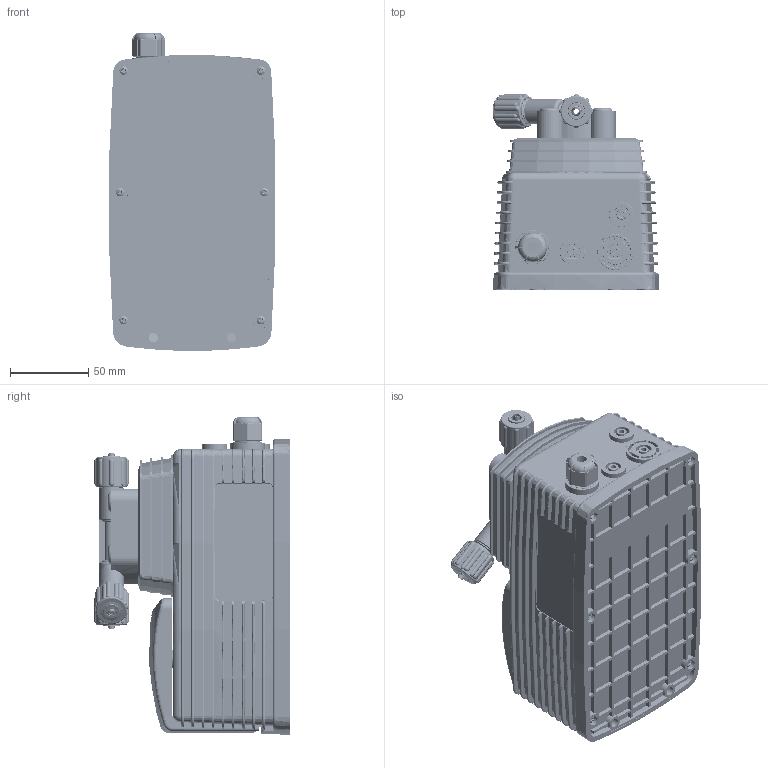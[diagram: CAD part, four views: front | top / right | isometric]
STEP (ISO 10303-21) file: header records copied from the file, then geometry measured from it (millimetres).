
FILE_DESCRIPTION (( 'STEP AP203' ), '1' );
FILE_NAME ('EMEC V Series Pump.STEP', '2020-01-14T02:17:53', ( '' ), ( '' ), 'SwSTEP 2.0', 'SolidWorks 2018', '' );
FILE_SCHEMA (( 'CONFIG_CONTROL_DESIGN' ));
Length unit declared in the file: millimetre
Products named in the file (33): Screw - Countersunk - Mini; Solenoid - Main Body; EMEC 025.XXXX.X - Hose Fitting Kit - 3_8in 4x6_Hose Fitting Kit - 3_8in - 4x6 - FP; Screw - Pan Head - 15mm; EMEC V series pump - Diaphgram; Solenoid - Limit Plate; Gland - 16mm - Body; Priming_Bleed Valve - 3_8in_FP; EMEC V series pump - Head_Degassing head; Solenoid - Nut; Gland - 16mm - Bush; O-Ring - 6.75 x 1.75; O-Ring - 39.0 x 2.5 - Head O-Ring; Solenoid - Pin; Gland - 16mm; O-Ring - 10.25 x 2.25; O-Ring - 11.5 x 1.75; Solenoid - Plunger; EMEC V Series Pump; Bolt - SS - Hex Head - M4x0.5; Solenoid - Washer; EMEC V series pump - Body; Hose Fitting Kit - 3_8in - 4x6 Cone; Washer - SS - M4 - 11.6mm; Solenoid - Complete; EMEC V series pump - Speed Adjustment Knob; Hose Fitting Kit - 3_8in - Nut_Hose Fitting Kit - 3_8in - Nut - FP; Bolt Cap - Plastic - Small; EMEC V series pump - Clear (Tinted) Lid; EMEC V series pump - Body Back; Hose Fitting Kit - 3_8in - 4x6 Clamp; EMEC V series pump - Head_DeGassing Head
Assembly tree (51 placements, depth 3):
  EMEC V Series Pump
    EMEC V series pump - Body
    EMEC V series pump - Speed Adjustment Knob
    EMEC V series pump - Body Back
    Solenoid - Complete
      Solenoid - Main Body
      Solenoid - Limit Plate
      Solenoid - Nut
      Solenoid - Pin
      Solenoid - Plunger
      Solenoid - Washer
    EMEC V series pump - Clear (Tinted) Lid
    Screw - Countersunk - Mini  x2
    EMEC V series pump - Diaphgram
    EMEC V series pump - Head_DeGassing Head
      EMEC V series pump - Head_Degassing head
      O-Ring - 39.0 x 2.5 - Head O-Ring
      O-Ring - 11.5 x 1.75  x3
      Bolt - SS - Hex Head - M4x0.5  x4
      Washer - SS - M4 - 11.6mm  x4
      Bolt Cap - Plastic - Small  x4
    Screw - Pan Head - 15mm  x6
    Priming_Bleed Valve - 3_8in_FP
      Priming_Bleed Valve - 3_8in_FP
      O-Ring - 6.75 x 1.75
      O-Ring - 10.25 x 2.25
    EMEC 025.XXXX.X - Hose Fitting Kit - 3_8in 4x6_Hose Fitting Kit - 3_8in - 4x6 - FP  x3
      Hose Fitting Kit - 3_8in - 4x6 Cone
      Hose Fitting Kit - 3_8in - Nut_Hose Fitting Kit - 3_8in - Nut - FP
      Hose Fitting Kit - 3_8in - 4x6 Clamp
    Gland - 16mm
      Gland - 16mm - Body
      Gland - 16mm - Bush
Bounding box: 106.99 x 125.31 x 203.64 mm (x, y, z)
Volume: 654210.9 mm3; surface area: 324978.7 mm2
Topology: 78 solids, 78 shells, 4645 faces, 11689 edges, 7471 vertices
Faces by surface type: plane 1278, bspline 1248, cylinder 1199, torus 582, cone 268, sphere 70
Entity records: 313121 total; most frequent: CARTESIAN_POINT 236099, ORIENTED_EDGE 16766, DIRECTION 13658, EDGE_CURVE 8383, VERTEX_POINT 5356, AXIS2_PLACEMENT_3D 5280, EDGE_LOOP 3597, ADVANCED_FACE 3309
